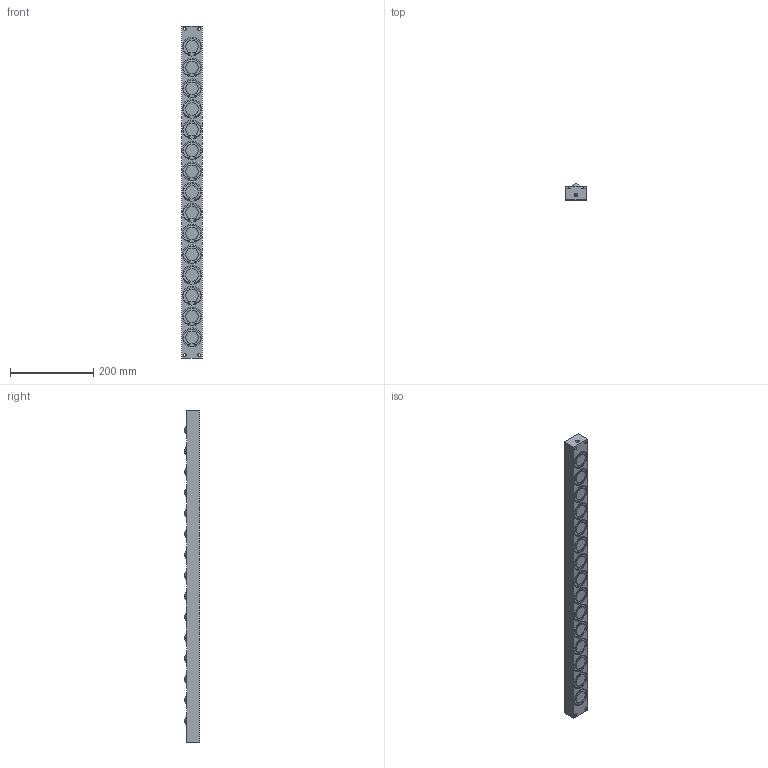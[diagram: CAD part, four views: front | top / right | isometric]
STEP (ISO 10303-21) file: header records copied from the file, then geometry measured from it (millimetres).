
FILE_DESCRIPTION (( 'STEP AP203' ), '1' );
FILE_NAME ('PVL55SL-15.STEP', '2016-01-06T00:45:07', ( '' ), ( '' ), 'SwSTEP 2.0', 'SolidWorks 2013', '' );
FILE_SCHEMA (( 'CONFIG_CONTROL_DESIGN' ));
Length unit declared in the file: millimetre
Products named in the file (1): PVL55SL-15
Bounding box: 49 x 38 x 800 mm (x, y, z)
Volume: 1235954.1 mm3; surface area: 175144.5 mm2
Topology: 1 solids, 1 shells, 618 faces, 1531 edges, 1024 vertices
Faces by surface type: cylinder 408, plane 176, sphere 30, cone 4
Entity records: 18988 total; most frequent: DIRECTION 3737, CARTESIAN_POINT 3172, ORIENTED_EDGE 3058, AXIS2_PLACEMENT_3D 1589, EDGE_CURVE 1529, VERTEX_POINT 1024, CIRCLE 970, EDGE_LOOP 737
